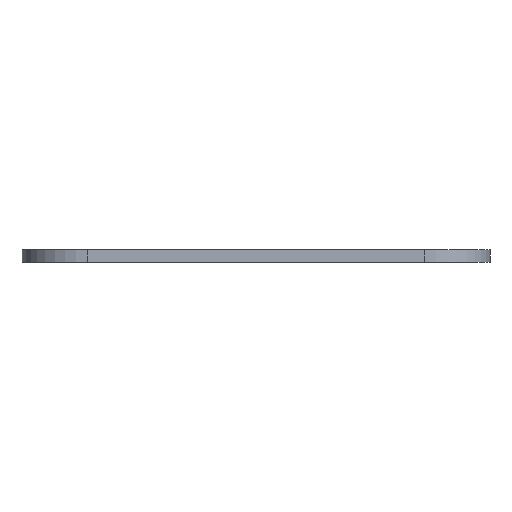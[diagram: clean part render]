
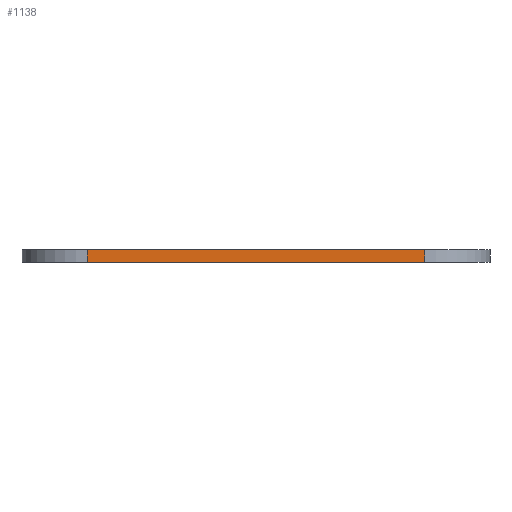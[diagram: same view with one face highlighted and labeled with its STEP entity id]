
A CAD part, left-side view. The second image highlights one B-rep face of the part: STEP entity #1138.
In plain terms, the highlighted planar face has unit normal (-1, 0, 0).
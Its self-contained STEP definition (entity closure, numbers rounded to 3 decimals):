
#44 = PLANE('',#45);
#45 = AXIS2_PLACEMENT_3D('',#46,#47,#48);
#46 = CARTESIAN_POINT('',(0.,0.,0.));
#47 = DIRECTION('',(0.,0.,1.));
#48 = DIRECTION('',(1.,0.,-0.));
#72 = CYLINDRICAL_SURFACE('',#73,16.3);
#73 = AXIS2_PLACEMENT_3D('',#74,#75,#76);
#74 = CARTESIAN_POINT('',(-78.,-42.,0.));
#75 = DIRECTION('',(0.,0.,1.));
#76 = DIRECTION('',(0.,-1.,0.));
#100 = PLANE('',#101);
#101 = AXIS2_PLACEMENT_3D('',#102,#103,#104);
#102 = CARTESIAN_POINT('',(0.,0.,3.));
#103 = DIRECTION('',(0.,0.,1.));
#104 = DIRECTION('',(1.,0.,-0.));
#252 = VERTEX_POINT('',#253);
#253 = CARTESIAN_POINT('',(-94.3,42.,0.));
#268 = CYLINDRICAL_SURFACE('',#269,16.3);
#269 = AXIS2_PLACEMENT_3D('',#270,#271,#272);
#270 = CARTESIAN_POINT('',(-78.,42.,0.));
#271 = DIRECTION('',(0.,0.,1.));
#272 = DIRECTION('',(-0.,1.,0.));
#280 = EDGE_CURVE('',#252,#281,#283,.T.);
#281 = VERTEX_POINT('',#282);
#282 = CARTESIAN_POINT('',(-94.3,-42.,0.));
#283 = SURFACE_CURVE('',#284,(#288,#295),.PCURVE_S1.);
#284 = LINE('',#285,#286);
#285 = CARTESIAN_POINT('',(-94.3,58.3,0.));
#286 = VECTOR('',#287,1.);
#287 = DIRECTION('',(0.,-1.,0.));
#288 = PCURVE('',#44,#289);
#289 = DEFINITIONAL_REPRESENTATION('',(#290),#294);
#290 = LINE('',#291,#292);
#291 = CARTESIAN_POINT('',(-94.3,58.3));
#292 = VECTOR('',#293,1.);
#293 = DIRECTION('',(0.,-1.));
#294 = ( GEOMETRIC_REPRESENTATION_CONTEXT(2) 
PARAMETRIC_REPRESENTATION_CONTEXT() REPRESENTATION_CONTEXT('2D SPACE',''
  ) );
#295 = PCURVE('',#296,#301);
#296 = PLANE('',#297);
#297 = AXIS2_PLACEMENT_3D('',#298,#299,#300);
#298 = CARTESIAN_POINT('',(-94.3,58.3,0.));
#299 = DIRECTION('',(1.,0.,-0.));
#300 = DIRECTION('',(0.,-1.,0.));
#301 = DEFINITIONAL_REPRESENTATION('',(#302),#306);
#302 = LINE('',#303,#304);
#303 = CARTESIAN_POINT('',(0.,0.));
#304 = VECTOR('',#305,1.);
#305 = DIRECTION('',(1.,0.));
#306 = ( GEOMETRIC_REPRESENTATION_CONTEXT(2) 
PARAMETRIC_REPRESENTATION_CONTEXT() REPRESENTATION_CONTEXT('2D SPACE',''
  ) );
#700 = EDGE_CURVE('',#281,#701,#703,.T.);
#701 = VERTEX_POINT('',#702);
#702 = CARTESIAN_POINT('',(-94.3,-42.,3.));
#703 = SURFACE_CURVE('',#704,(#708,#715),.PCURVE_S1.);
#704 = LINE('',#705,#706);
#705 = CARTESIAN_POINT('',(-94.3,-42.,0.));
#706 = VECTOR('',#707,1.);
#707 = DIRECTION('',(0.,0.,1.));
#708 = PCURVE('',#72,#709);
#709 = DEFINITIONAL_REPRESENTATION('',(#710),#714);
#710 = LINE('',#711,#712);
#711 = CARTESIAN_POINT('',(-1.571,0.));
#712 = VECTOR('',#713,1.);
#713 = DIRECTION('',(-0.,1.));
#714 = ( GEOMETRIC_REPRESENTATION_CONTEXT(2) 
PARAMETRIC_REPRESENTATION_CONTEXT() REPRESENTATION_CONTEXT('2D SPACE',''
  ) );
#715 = PCURVE('',#296,#716);
#716 = DEFINITIONAL_REPRESENTATION('',(#717),#721);
#717 = LINE('',#718,#719);
#718 = CARTESIAN_POINT('',(100.3,0.));
#719 = VECTOR('',#720,1.);
#720 = DIRECTION('',(0.,-1.));
#721 = ( GEOMETRIC_REPRESENTATION_CONTEXT(2) 
PARAMETRIC_REPRESENTATION_CONTEXT() REPRESENTATION_CONTEXT('2D SPACE',''
  ) );
#876 = VERTEX_POINT('',#877);
#877 = CARTESIAN_POINT('',(-94.3,42.,3.));
#899 = EDGE_CURVE('',#876,#701,#900,.T.);
#900 = SURFACE_CURVE('',#901,(#905,#912),.PCURVE_S1.);
#901 = LINE('',#902,#903);
#902 = CARTESIAN_POINT('',(-94.3,58.3,3.));
#903 = VECTOR('',#904,1.);
#904 = DIRECTION('',(0.,-1.,0.));
#905 = PCURVE('',#100,#906);
#906 = DEFINITIONAL_REPRESENTATION('',(#907),#911);
#907 = LINE('',#908,#909);
#908 = CARTESIAN_POINT('',(-94.3,58.3));
#909 = VECTOR('',#910,1.);
#910 = DIRECTION('',(0.,-1.));
#911 = ( GEOMETRIC_REPRESENTATION_CONTEXT(2) 
PARAMETRIC_REPRESENTATION_CONTEXT() REPRESENTATION_CONTEXT('2D SPACE',''
  ) );
#912 = PCURVE('',#296,#913);
#913 = DEFINITIONAL_REPRESENTATION('',(#914),#918);
#914 = LINE('',#915,#916);
#915 = CARTESIAN_POINT('',(0.,-3.));
#916 = VECTOR('',#917,1.);
#917 = DIRECTION('',(1.,0.));
#918 = ( GEOMETRIC_REPRESENTATION_CONTEXT(2) 
PARAMETRIC_REPRESENTATION_CONTEXT() REPRESENTATION_CONTEXT('2D SPACE',''
  ) );
#1138 = ADVANCED_FACE('',(#1139),#296,.F.);
#1139 = FACE_BOUND('',#1140,.F.);
#1140 = EDGE_LOOP('',(#1141,#1142,#1163,#1164));
#1141 = ORIENTED_EDGE('',*,*,#280,.F.);
#1142 = ORIENTED_EDGE('',*,*,#1143,.T.);
#1143 = EDGE_CURVE('',#252,#876,#1144,.T.);
#1144 = SURFACE_CURVE('',#1145,(#1149,#1156),.PCURVE_S1.);
#1145 = LINE('',#1146,#1147);
#1146 = CARTESIAN_POINT('',(-94.3,42.,0.));
#1147 = VECTOR('',#1148,1.);
#1148 = DIRECTION('',(0.,0.,1.));
#1149 = PCURVE('',#296,#1150);
#1150 = DEFINITIONAL_REPRESENTATION('',(#1151),#1155);
#1151 = LINE('',#1152,#1153);
#1152 = CARTESIAN_POINT('',(16.3,0.));
#1153 = VECTOR('',#1154,1.);
#1154 = DIRECTION('',(0.,-1.));
#1155 = ( GEOMETRIC_REPRESENTATION_CONTEXT(2) 
PARAMETRIC_REPRESENTATION_CONTEXT() REPRESENTATION_CONTEXT('2D SPACE',''
  ) );
#1156 = PCURVE('',#268,#1157);
#1157 = DEFINITIONAL_REPRESENTATION('',(#1158),#1162);
#1158 = LINE('',#1159,#1160);
#1159 = CARTESIAN_POINT('',(1.571,0.));
#1160 = VECTOR('',#1161,1.);
#1161 = DIRECTION('',(0.,1.));
#1162 = ( GEOMETRIC_REPRESENTATION_CONTEXT(2) 
PARAMETRIC_REPRESENTATION_CONTEXT() REPRESENTATION_CONTEXT('2D SPACE',''
  ) );
#1163 = ORIENTED_EDGE('',*,*,#899,.T.);
#1164 = ORIENTED_EDGE('',*,*,#700,.F.);
